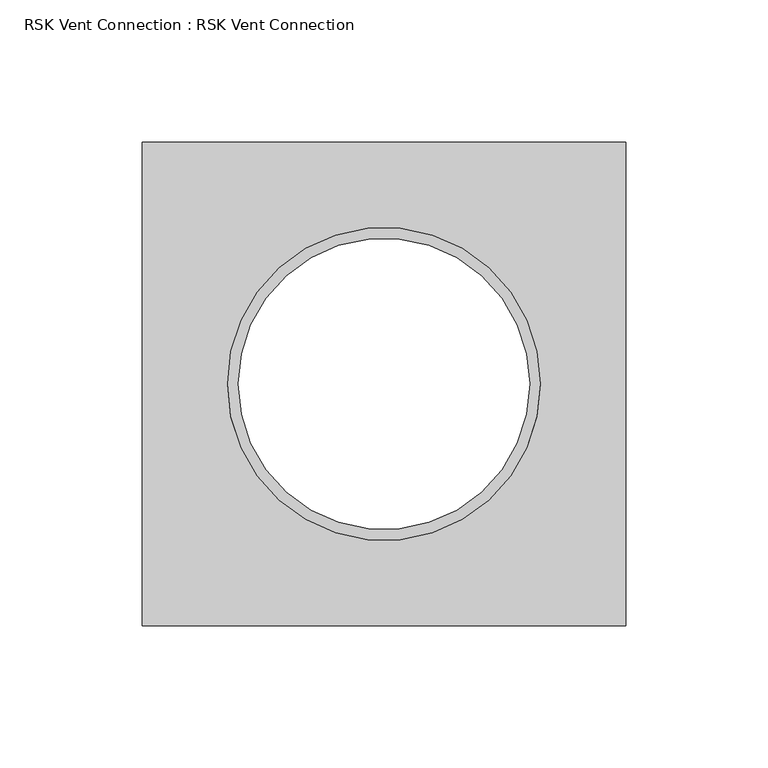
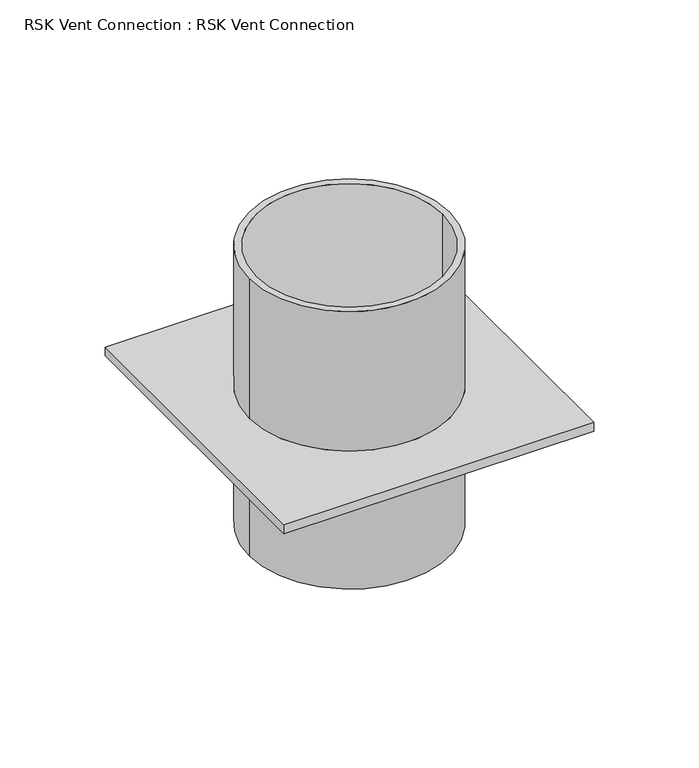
"""IFC4 building model written with IfcOpenShell, lengths in millimetres: proxy geometry, RSK Vent Connection : RSK Vent Connection."""

import ifcopenshell
import ifcopenshell.guid

model = None  # the IFC model being written
_history = None  # IfcOwnerHistory: only IFC2X3 demands one
_inside = {}  # id of a spatial element -> (the spatial element, [elements in it])
_under = {}  # id of a project, library or spatial element -> (it, [spatial elements below it])
_declared = {}  # id of a project -> (the project, [libraries it declares])
_typed = {}  # id of a type object -> (the type object, [elements of that type])
_made_of = {}  # id of a material, layer set ... -> (it, [elements and type objects made of it])


def new_model(schema):
    """Start an empty IFC model of exactly this schema.

    Asked for "IFC4X3", IfcOpenShell would pick the latest addendum, in which some entities
    have other attributes; the version numbers below select the first issue.
    IFC2X3 requires an IfcOwnerHistory on every rooted entity: one is made here for all.
    """
    global model, _history
    if schema == "IFC4X3":
        model = ifcopenshell.file(schema_version=(4, 3, 0, 0))
    else:
        model = ifcopenshell.file(schema=schema)
    _inside.clear()
    _under.clear()
    _declared.clear()
    _typed.clear()
    _made_of.clear()
    _history = None
    if model.schema == "IFC2X3":
        org = make("IfcOrganization", Name="unknown")
        user = make(
            "IfcPersonAndOrganization",
            ThePerson=make("IfcPerson", FamilyName="unknown"),
            TheOrganization=org,
        )
        app = make(
            "IfcApplication",
            ApplicationDeveloper=org,
            Version="unknown",
            ApplicationFullName="unknown",
            ApplicationIdentifier="unknown",
        )
        _history = make(
            "IfcOwnerHistory",
            OwningUser=user,
            OwningApplication=app,
            ChangeAction="ADDED",
            CreationDate=0,
        )
    return model


def make(cls, **values):
    """One entity of the class cls with the attributes given. An attribute that is None is left unset."""
    return model.create_entity(
        cls, **{name: value for name, value in values.items() if value is not None}
    )


def rooted(cls, **values):
    """An entity with a GlobalId (a new one), such as an element, a storey or a relation."""
    return make(cls, GlobalId=ifcopenshell.guid.new(), OwnerHistory=_history, **values)


def si_unit(unit_type, name, prefix=None):
    """IfcSIUnit, for example si_unit("LENGTHUNIT", "METRE", prefix="MILLI")."""
    return make("IfcSIUnit", UnitType=unit_type, Prefix=prefix, Name=name)


def assignment(units):
    """IfcUnitAssignment: the units of a project."""
    return None if units is None else make("IfcUnitAssignment", Units=units)


def point(xyz):
    """IfcCartesianPoint."""
    return None if xyz is None else make("IfcCartesianPoint", Coordinates=xyz)


def direction(xyz):
    """IfcDirection."""
    return None if xyz is None else make("IfcDirection", DirectionRatios=xyz)


def frame(location, z_axis=None, x_axis=None):
    """IfcAxis2Placement3D, a coordinate frame: its origin and axes. An axis left out is left unset."""
    return make(
        "IfcAxis2Placement3D",
        Location=point(location),
        Axis=direction(z_axis),
        RefDirection=direction(x_axis),
    )


def origin():
    """The frame at (0, 0, 0) with its axes left unset."""
    return frame((0.0, 0.0, 0.0))


def place(relative_to, where):
    """IfcLocalPlacement: puts the frame where relative to a parent placement (None: the world)."""
    return make(
        "IfcLocalPlacement", PlacementRelTo=relative_to, RelativePlacement=where
    )


def context(
    kind, dimensions, precision=None, world=None, true_north=None, identifier=None
):
    """IfcGeometricRepresentationContext, for example the 3D "Model" context."""
    return make(
        "IfcGeometricRepresentationContext",
        ContextIdentifier=identifier,
        ContextType=kind,
        CoordinateSpaceDimension=dimensions,
        Precision=precision,
        WorldCoordinateSystem=world,
        TrueNorth=true_north,
    )


def project(units=None, contexts=None):
    """IfcProject with its units and contexts."""
    return rooted(
        "IfcProject",
        Name="project",
        RepresentationContexts=contexts,
        UnitsInContext=assignment(units),
    )


def spatial(cls, under=None, at=None, **own):
    """A site, building, storey or space (cls), placed at a placement, below another one or the project."""
    s = rooted(cls, ObjectPlacement=at, **own)
    if under is not None:
        _under.setdefault(under.id(), (under, []))[1].append(s)
    return s


def polyline(points):
    """IfcPolyline through the points."""
    return make("IfcPolyline", Points=[point(p) for p in points])


def circle_curve(where, radius):
    """IfcCircle in the frame where."""
    return make("IfcCircle", Position=where, Radius=radius)


def shape(context_of_items, identifier, shape_type, items):
    """IfcShapeRepresentation: the items that make up one representation, for example the "Body"."""
    return make(
        "IfcShapeRepresentation",
        ContextOfItems=context_of_items,
        RepresentationIdentifier=identifier,
        RepresentationType=shape_type,
        Items=items,
    )


def source(mapping_origin, context_of_items, identifier, shape_type, items):
    """IfcRepresentationMap: a shape defined once, which mapped items show again and again."""
    return make(
        "IfcRepresentationMap",
        MappingOrigin=mapping_origin,
        MappedRepresentation=shape(context_of_items, identifier, shape_type, items),
    )


def transform(
    local_origin,
    x_axis=None,
    y_axis=None,
    z_axis=None,
    scale=None,
    scale2=None,
    scale3=None,
    uniform=True,
):
    """IfcCartesianTransformationOperator3D, or its non-uniform kind. x_axis, y_axis, z_axis: its Axis1, 2, 3."""
    if uniform:
        return make(
            "IfcCartesianTransformationOperator3D",
            Axis1=direction(x_axis),
            Axis2=direction(y_axis),
            LocalOrigin=point(local_origin),
            Scale=scale,
            Axis3=direction(z_axis),
        )
    return make(
        "IfcCartesianTransformationOperator3DnonUniform",
        Axis1=direction(x_axis),
        Axis2=direction(y_axis),
        LocalOrigin=point(local_origin),
        Scale=scale,
        Axis3=direction(z_axis),
        Scale2=scale2,
        Scale3=scale3,
    )


def mapped(mapping_source, mapping_target):
    """IfcMappedItem: shows the shape of a source again, moved by a transform."""
    return make(
        "IfcMappedItem", MappingSource=mapping_source, MappingTarget=mapping_target
    )


def made_of(thing, what):
    """Note that an element or type object is made of a material, layer set ...; save() writes the relation."""
    if what is not None:
        _made_of.setdefault(what.id(), (what, []))[1].append(thing)
    return thing


def element(
    cls,
    number,
    at=None,
    inside=None,
    cuts=None,
    type_object=None,
    material=None,
    context=None,
    identifier="Body",
    shape_type=None,
    held_by="IfcProductDefinitionShape",
    body=None,
    shapes=None,
    **own,
):
    """One element of the class cls, such as IfcWall. Its Tag is "e" and its number.

    at: its placement. inside: the storey or other place that contains it. cuts: it is an
    opening in that element (IfcRelVoidsElement). A single representation is given by context,
    identifier, shape_type and body (its items); several are given by shapes. held_by: the class
    of the entity that holds the representations. save() writes the other relations.
    """
    e = rooted(cls, Tag="e%d" % number, ObjectPlacement=at, **own)
    if body is not None:
        shapes = [shape(context, identifier, shape_type, body)]
    if shapes is not None:
        e.Representation = make(held_by, Representations=shapes)
    if inside is not None:
        _inside.setdefault(inside.id(), (inside, []))[1].append(e)
    if cuts is not None:
        rooted(
            "IfcRelVoidsElement", RelatingBuildingElement=cuts, RelatedOpeningElement=e
        )
    if type_object is not None:
        _typed.setdefault(type_object.id(), (type_object, []))[1].append(e)
    return made_of(e, material)


def aggregate(whole, parts):
    """IfcRelAggregates: a whole, such as a stair, and the parts it consists of."""
    return rooted("IfcRelAggregates", RelatingObject=whole, RelatedObjects=parts)


def save(model, path):
    """Write the relations noted so far, then the file.

    IfcRelAggregates (storeys below a building ...), IfcRelContainedInSpatialStructure (elements
    in a storey), IfcRelDefinesByType, IfcRelAssociatesMaterial and IfcRelDeclares: one each for
    every whole, place, type object, material and project.
    """
    for whole, parts in _under.values():
        aggregate(whole, parts)
    for where, things in _inside.values():
        rooted(
            "IfcRelContainedInSpatialStructure",
            RelatedElements=things,
            RelatingStructure=where,
        )
    for kind, things in _typed.values():
        rooted("IfcRelDefinesByType", RelatedObjects=things, RelatingType=kind)
    for what, things in _made_of.values():
        rooted("IfcRelAssociatesMaterial", RelatedObjects=things, RelatingMaterial=what)
    for by, libraries in _declared.values():
        rooted("IfcRelDeclares", RelatingContext=by, RelatedDefinitions=libraries)
    model.write(path)


def plane_surface(at):
    """IfcPlane: the flat surface through the origin of the frame at, square to its z axis."""
    return make("IfcPlane", Position=at)


def cylinder_surface(at, radius):
    """IfcCylindricalSurface: all points at the distance radius from the z axis of the frame at."""
    return make("IfcCylindricalSurface", Position=at, Radius=radius)


def revolved_surface(curve, axis_point, axis_direction):
    """IfcSurfaceOfRevolution: the curve turned about the line through axis_point along axis_direction."""
    return make(
        "IfcSurfaceOfRevolution",
        SweptCurve=make("IfcArbitraryOpenProfileDef", ProfileType="CURVE", Curve=curve),
        AxisPosition=make("IfcAxis1Placement", Location=point(axis_point), Axis=direction(axis_direction)),
    )


def advanced_brep(points, edges, surfaces, faces):
    """IfcAdvancedBrep: a solid bounded by faces that lie on surfaces and meet in shared edges.

    An edge is (start, end): straight between two places in points (the first is 0);
    or (start, end, curve); or (start, end, curve, False) where it runs against its curve.
    A face is (place in surfaces, loops), or (place, loops, False) where it looks against
    its surface's normal. A loop lists edges by number (the first is 1), with a minus sign
    where the edge is run from its end to its start. The first loop is the outer one.
    """
    corners = [point(p) for p in points]
    vertices = [make("IfcVertexPoint", VertexGeometry=c) for c in corners]
    made = []
    for start, end, *more in edges:
        made.append(
            make(
                "IfcEdgeCurve",
                EdgeStart=vertices[start],
                EdgeEnd=vertices[end],
                EdgeGeometry=more[0] if more else make("IfcPolyline", Points=[corners[start], corners[end]]),
                SameSense=more[1] if len(more) > 1 else True,
            )
        )
    hull = []
    for where, loops, *sense in faces:
        bounds = []
        for j, loop in enumerate(loops):
            ring = [make("IfcOrientedEdge", EdgeElement=made[abs(k) - 1], Orientation=k > 0) for k in loop]
            bounds.append(
                make(
                    "IfcFaceOuterBound" if j == 0 else "IfcFaceBound",
                    Bound=make("IfcEdgeLoop", EdgeList=ring),
                    Orientation=True,
                )
            )
        hull.append(make("IfcAdvancedFace", Bounds=bounds, FaceSurface=surfaces[where], SameSense=sense[0] if sense else True))
    return make("IfcAdvancedBrep", Outer=make("IfcClosedShell", CfsFaces=hull))


def rsk_vent_connection_rsk_vent_connection_1e2e4906(model_context):
    return source(origin(), model_context, "Body", "AdvancedBrep", [
        advanced_brep(
        [(85.0, -85.0, 5.0), (85.0, 85.0, 5.0), (-85.0, 85.0, 5.0), (-85.0, -85.0, 5.0), (-55.0, 0.0, 5.0), (55.0, 0.0, 5.0), (85.0, -85.0, 0.0), (-85.0, -85.0, 0.0), (-85.0, 85.0, 0.0), (85.0, 85.0, 0.0), (55.0, 0.0, 0.0), (-55.0, 0.0, 0.0), (55.0, 0.0, 86.0), (-55.0, 0.0, 86.0), (51.2, 0.0, 86.0), (-51.2, 0.0, 86.0), (55.0, 0.0, -75.0), (-55.0, 0.0, -75.0), (51.2, 0.0, -75.0), (-51.2, 0.0, -75.0)],
        [
            (0, 1),
            (1, 2),
            (2, 3),
            (3, 0),
            (4, 5, circle_curve(frame((0.0, 0.0, 5.0), z_axis=(0.0, 0.0, -1.0), x_axis=(-1.0, 0.0, 0.0)), 55.0)),
            (5, 4, circle_curve(frame((0.0, 0.0, 5.0), z_axis=(0.0, 0.0, -1.0), x_axis=(-1.0, 0.0, 0.0)), 55.0)),
            (6, 7),
            (7, 8),
            (8, 9),
            (9, 6),
            (10, 11, circle_curve(frame((0.0, 0.0, 0.0), z_axis=(0.0, 0.0, 1.0), x_axis=(-1.0, 0.0, 0.0)), 55.0)),
            (11, 10, circle_curve(frame((0.0, 0.0, 0.0), z_axis=(0.0, 0.0, 1.0), x_axis=(-1.0, 0.0, 0.0)), 55.0)),
            (0, 6),
            (9, 1),
            (8, 2),
            (7, 3),
            (12, 13, circle_curve(frame((0.0, 0.0, 86.0), z_axis=(0.0, 0.0, 1.0), x_axis=(-1.0, 0.0, 0.0)), 55.0)),
            (13, 12, circle_curve(frame((0.0, 0.0, 86.0), z_axis=(0.0, 0.0, 1.0), x_axis=(-1.0, 0.0, 0.0)), 55.0)),
            (14, 15, circle_curve(frame((0.0, 0.0, 86.0), z_axis=(0.0, 0.0, -1.0), x_axis=(-1.0, 0.0, 0.0)), 51.2)),
            (15, 14, circle_curve(frame((0.0, 0.0, 86.0), z_axis=(0.0, 0.0, -1.0), x_axis=(-1.0, 0.0, 0.0)), 51.2)),
            (16, 17, circle_curve(frame((0.0, 0.0, -75.0), z_axis=(0.0, 0.0, -1.0), x_axis=(-1.0, 0.0, 0.0)), 55.0)),
            (17, 16, circle_curve(frame((0.0, 0.0, -75.0), z_axis=(0.0, 0.0, -1.0), x_axis=(-1.0, 0.0, 0.0)), 55.0)),
            (18, 19, circle_curve(frame((0.0, 0.0, -75.0), z_axis=(0.0, 0.0, 1.0), x_axis=(-1.0, 0.0, 0.0)), 51.2)),
            (19, 18, circle_curve(frame((0.0, 0.0, -75.0), z_axis=(0.0, 0.0, 1.0), x_axis=(-1.0, 0.0, 0.0)), 51.2)),
            (12, 5),
            (4, 13),
            (17, 11),
            (10, 16),
            (14, 18),
            (19, 15),
        ],
        [
            plane_surface(frame((85.0, -85.0, 5.0), z_axis=(0.0, 0.0, 1.0), x_axis=(0.0, 1.0, 0.0))),
            plane_surface(frame((85.0, -85.0, 0.0), z_axis=(0.0, 0.0, -1.0), x_axis=(0.0, -1.0, 0.0))),
            plane_surface(frame((85.0, -85.0, 5.0), z_axis=(1.0, 0.0, 0.0), x_axis=(0.0, 0.0, -1.0))),
            plane_surface(frame((85.0, 85.0, 5.0), z_axis=(0.0, 1.0, 0.0), x_axis=(0.0, 0.0, -1.0))),
            plane_surface(frame((-85.0, 85.0, 5.0), z_axis=(-1.0, 0.0, 0.0), x_axis=(0.0, 0.0, -1.0))),
            plane_surface(frame((-85.0, -85.0, 5.0), z_axis=(0.0, -1.0, 0.0), x_axis=(0.0, 0.0, -1.0))),
            plane_surface(frame((-55.0, 0.0, 86.0), z_axis=(0.0, 0.0, 1.0), x_axis=(0.0, -1.0, 0.0))),
            plane_surface(frame((-55.0, 0.0, -75.0), z_axis=(0.0, 0.0, -1.0), x_axis=(0.0, 1.0, 0.0))),
            cylinder_surface(frame((0.0, 0.0, -75.0), z_axis=(0.0, 0.0, 1.0), x_axis=(-1.0, 0.0, 0.0)), 55.0),
            revolved_surface(polyline([(-51.2, 0.0, -75.0), (-51.2, 0.0, 86.0)]), (0.0, 0.0, -75.0), (0.0, 0.0, -1.0)),
        ],
        [
            (0, [[1, 2, 3, 4], [5, 6]]),
            (1, [[7, 8, 9, 10], [11, 12]]),
            (2, [[-1, 13, -10, 14]]),
            (3, [[-2, -14, -9, 15]]),
            (4, [[-3, -15, -8, 16]]),
            (5, [[-4, -16, -7, -13]]),
            (6, [[17, 18], [19, 20]]),
            (7, [[21, 22], [23, 24]]),
            (8, [[-17, 25, -5, 26]]),
            (8, [[-22, 27, -11, 28]]),
            (8, [[-18, -26, -6, -25]]),
            (8, [[-21, -28, -12, -27]]),
            (9, [[-19, 29, -24, 30]]),
            (9, [[-20, -30, -23, -29]]),
        ],
    ),
    ])


if __name__ == "__main__":
    model = new_model("IFC4")
    model_context = context("Model", 3, world=origin())
    ifc_project = project(units=[si_unit("LENGTHUNIT", "METRE", prefix="MILLI")], contexts=[model_context])
    site = spatial("IfcSite", under=ifc_project)
    building = spatial("IfcBuilding", under=site)
    placement = place(None, origin())
    rsk_vent_connection_rsk_vent_connection_shape = rsk_vent_connection_rsk_vent_connection_1e2e4906(model_context)
    element("IfcBuildingElementProxy", 1, Name="RSK Vent Connection : RSK Vent Connection", ObjectType="RSK Vent Connection : RSK Vent Connection", at=placement, inside=building, context=model_context, shape_type="MappedRepresentation", body=[
        mapped(rsk_vent_connection_rsk_vent_connection_shape, transform((0.0, 0.0, 0.0), x_axis=(1.0, 0.0, 0.0), y_axis=(0.0, 1.0, 0.0), z_axis=(0.0, 0.0, 1.0))),
    ])
    save(model, "model.ifc")
